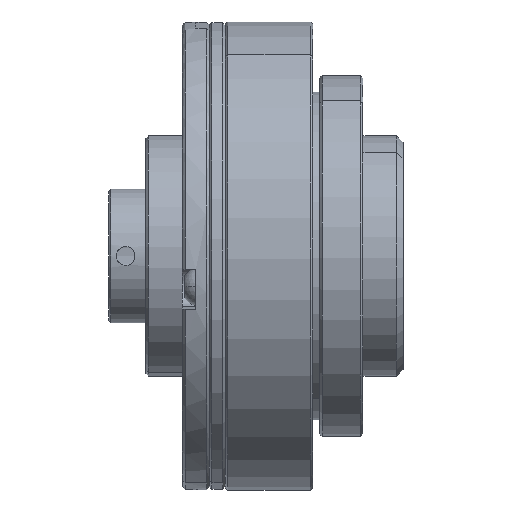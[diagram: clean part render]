
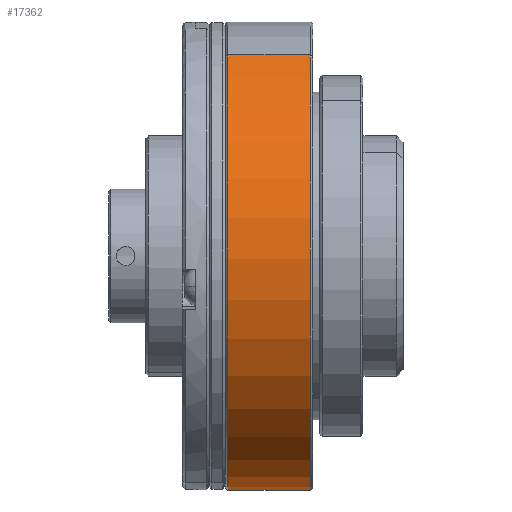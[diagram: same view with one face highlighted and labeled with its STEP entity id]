
A CAD part, front view. The second image highlights one B-rep face of the part: STEP entity #17362.
In plain terms, the highlighted cylindrical face has radius 35 mm (diameter 70 mm), a partial arc.
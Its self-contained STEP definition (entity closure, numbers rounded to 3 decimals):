
#338 = VERTEX_POINT ( 'NONE', #12989 ) ;
#2380 = DIRECTION ( 'NONE',  ( -1., 0., 0. ) ) ;
#2939 = EDGE_CURVE ( 'NONE', #338, #15742, #22803, .T. ) ;
#3076 = DIRECTION ( 'NONE',  ( -1., 0., 0. ) ) ;
#3092 = VECTOR ( 'NONE', #12271, 1000. ) ;
#3150 = EDGE_CURVE ( 'NONE', #20893, #338, #12482, .T. ) ;
#5218 = DIRECTION ( 'NONE',  ( 0., 0., 1. ) ) ;
#5233 = AXIS2_PLACEMENT_3D ( 'NONE', #15139, #2380, #17282 ) ;
#6761 = EDGE_LOOP ( 'NONE', ( #24125, #9915, #20693, #13813 ) ) ;
#7615 = EDGE_CURVE ( 'NONE', #17492, #15742, #17204, .T. ) ;
#7878 = CYLINDRICAL_SURFACE ( 'NONE', #19784, 35. ) ;
#8760 = CARTESIAN_POINT ( 'NONE',  ( 16.134, 0., -35. ) ) ;
#9207 = FACE_OUTER_BOUND ( 'NONE', #6761, .T. ) ;
#9479 = DIRECTION ( 'NONE',  ( -1., 0., 0. ) ) ;
#9915 = ORIENTED_EDGE ( 'NONE', *, *, #3150, .T. ) ;
#10114 = CARTESIAN_POINT ( 'NONE',  ( 0., 0., -35. ) ) ;
#10190 = CARTESIAN_POINT ( 'NONE',  ( 16.134, 0., 0. ) ) ;
#10486 = EDGE_CURVE ( 'NONE', #20893, #17492, #20087, .T. ) ;
#12061 = AXIS2_PLACEMENT_3D ( 'NONE', #10190, #25091, #12358 ) ;
#12271 = DIRECTION ( 'NONE',  ( -1., 0., 0. ) ) ;
#12358 = DIRECTION ( 'NONE',  ( 0., 0., 1. ) ) ;
#12482 = CIRCLE ( 'NONE', #12061, 35. ) ;
#12989 = CARTESIAN_POINT ( 'NONE',  ( 16.134, 0., 35. ) ) ;
#13813 = ORIENTED_EDGE ( 'NONE', *, *, #7615, .F. ) ;
#15139 = CARTESIAN_POINT ( 'NONE',  ( 3.766, 0., 0. ) ) ;
#15742 = VERTEX_POINT ( 'NONE', #26314 ) ;
#17171 = VECTOR ( 'NONE', #9479, 1000. ) ;
#17204 = CIRCLE ( 'NONE', #5233, 35. ) ;
#17282 = DIRECTION ( 'NONE',  ( 0., 0., 1. ) ) ;
#17362 = ADVANCED_FACE ( 'NONE', ( #9207 ), #7878, .T. ) ;
#17492 = VERTEX_POINT ( 'NONE', #22785 ) ;
#19784 = AXIS2_PLACEMENT_3D ( 'NONE', #24362, #3076, #5218 ) ;
#20087 = LINE ( 'NONE', #10114, #3092 ) ;
#20693 = ORIENTED_EDGE ( 'NONE', *, *, #2939, .T. ) ;
#20893 = VERTEX_POINT ( 'NONE', #8760 ) ;
#22785 = CARTESIAN_POINT ( 'NONE',  ( 3.766, 0., -35. ) ) ;
#22803 = LINE ( 'NONE', #26411, #17171 ) ;
#24125 = ORIENTED_EDGE ( 'NONE', *, *, #10486, .F. ) ;
#24362 = CARTESIAN_POINT ( 'NONE',  ( 0., 0., 0. ) ) ;
#25091 = DIRECTION ( 'NONE',  ( -1., 0., 0. ) ) ;
#26314 = CARTESIAN_POINT ( 'NONE',  ( 3.766, 0., 35. ) ) ;
#26411 = CARTESIAN_POINT ( 'NONE',  ( 0., 0., 35. ) ) ;
